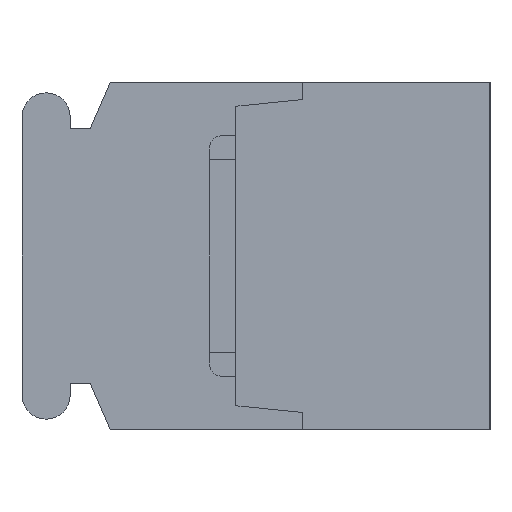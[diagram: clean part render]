
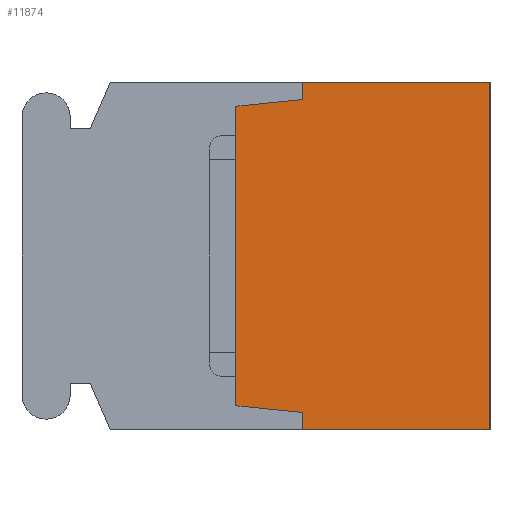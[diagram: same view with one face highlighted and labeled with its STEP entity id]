
A CAD part, left-side view. The second image highlights one B-rep face of the part: STEP entity #11874.
In plain terms, the highlighted planar face has unit normal (-1, 0, 0).
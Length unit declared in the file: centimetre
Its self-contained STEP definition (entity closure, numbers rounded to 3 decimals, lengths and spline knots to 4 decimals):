
#1084=VECTOR('',#13485,1.);
#1097=VECTOR('',#13499,1.);
#1139=VECTOR('',#13557,1.);
#1476=VECTOR('',#14402,1.);
#1477=VECTOR('',#14403,1.);
#1478=VECTOR('',#14404,1.);
#1479=VECTOR('',#14405,1.);
#1480=VECTOR('',#14406,1.);
#2430=LINE('',#16922,#1084);
#2443=LINE('',#16947,#1097);
#2485=LINE('',#17034,#1139);
#2822=LINE('',#18140,#1476);
#2823=LINE('',#18142,#1477);
#2824=LINE('',#18144,#1478);
#2825=LINE('',#18146,#1479);
#2826=LINE('',#18148,#1480);
#3748=VERTEX_POINT('',#16919);
#3749=VERTEX_POINT('',#16921);
#3761=VERTEX_POINT('',#16948);
#3793=VERTEX_POINT('',#17033);
#4112=VERTEX_POINT('',#18141);
#4113=VERTEX_POINT('',#18143);
#4114=VERTEX_POINT('',#18145);
#4115=VERTEX_POINT('',#18147);
#5322=EDGE_CURVE('',#3749,#3748,#2430,.T.);
#5335=EDGE_CURVE('',#3748,#3761,#2443,.T.);
#5379=EDGE_CURVE('',#3793,#3749,#2485,.T.);
#5870=EDGE_CURVE('',#4112,#3793,#2822,.T.);
#5871=EDGE_CURVE('',#4113,#4112,#2823,.T.);
#5872=EDGE_CURVE('',#4114,#4113,#2824,.T.);
#5873=EDGE_CURVE('',#4115,#4114,#2825,.T.);
#5874=EDGE_CURVE('',#3761,#4115,#2826,.T.);
#8896=ORIENTED_EDGE('',*,*,#5322,.F.);
#8897=ORIENTED_EDGE('',*,*,#5379,.F.);
#8898=ORIENTED_EDGE('',*,*,#5870,.F.);
#8899=ORIENTED_EDGE('',*,*,#5871,.F.);
#8900=ORIENTED_EDGE('',*,*,#5872,.F.);
#8901=ORIENTED_EDGE('',*,*,#5873,.F.);
#8902=ORIENTED_EDGE('',*,*,#5874,.F.);
#8903=ORIENTED_EDGE('',*,*,#5335,.F.);
#10448=EDGE_LOOP('',(#8896,#8897,#8898,#8899,#8900,#8901,#8902,#8903));
#11192=FACE_BOUND('',#10448,.T.);
#11874=ADVANCED_FACE('',(#11192),#12425,.F.);
#12425=PLANE('',#20236);
#13485=DIRECTION('',(0.,0.,-1.));
#13499=DIRECTION('',(0.,1.,0.));
#13557=DIRECTION('',(0.,-1.,0.));
#14401=DIRECTION('',(1.,0.,0.));
#14402=DIRECTION('',(0.,0.,1.));
#14403=DIRECTION('',(0.,-0.995,0.1));
#14404=DIRECTION('',(0.,0.,1.));
#14405=DIRECTION('',(0.,0.995,0.1));
#14406=DIRECTION('',(0.,0.,1.));
#16919=CARTESIAN_POINT('',(-1.84,0.,-0.65));
#16921=CARTESIAN_POINT('',(-1.84,0.,0.65));
#16922=CARTESIAN_POINT('',(-1.84,0.,0.65));
#16947=CARTESIAN_POINT('',(-1.84,0.,-0.65));
#16948=CARTESIAN_POINT('',(-1.84,0.7,-0.65));
#17033=CARTESIAN_POINT('',(-1.84,0.7,0.65));
#17034=CARTESIAN_POINT('',(-1.84,0.7,0.65));
#18139=CARTESIAN_POINT('',(-1.84,0.4626,0.));
#18140=CARTESIAN_POINT('',(-1.84,0.7,0.585));
#18141=CARTESIAN_POINT('',(-1.84,0.7,0.585));
#18142=CARTESIAN_POINT('',(-1.84,0.95,0.56));
#18143=CARTESIAN_POINT('',(-1.84,0.95,0.56));
#18144=CARTESIAN_POINT('',(-1.84,0.95,-0.56));
#18145=CARTESIAN_POINT('',(-1.84,0.95,-0.56));
#18146=CARTESIAN_POINT('',(-1.84,0.7,-0.585));
#18147=CARTESIAN_POINT('',(-1.84,0.7,-0.585));
#18148=CARTESIAN_POINT('',(-1.84,0.7,-0.65));
#20236=AXIS2_PLACEMENT_3D('',#18139,#14401,$);
